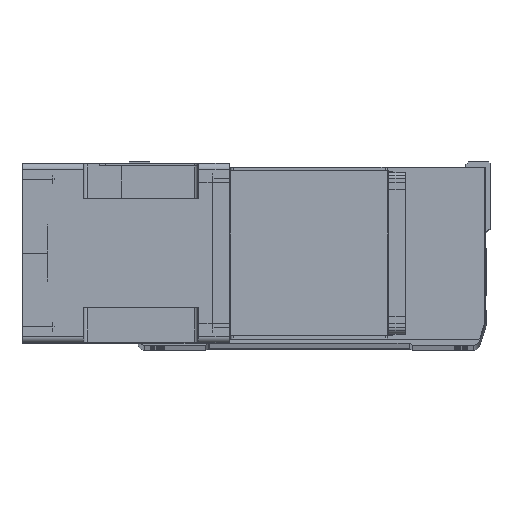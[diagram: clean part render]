
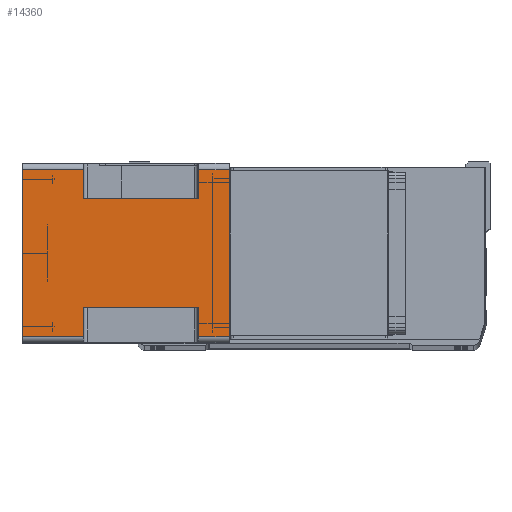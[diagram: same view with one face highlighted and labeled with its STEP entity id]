
A CAD part, top view. The second image highlights one B-rep face of the part: STEP entity #14360.
In plain terms, the highlighted planar face has unit normal (0, 0, 1) as drawn and (-1, 0, 0) by its records, which use the part's own axes.
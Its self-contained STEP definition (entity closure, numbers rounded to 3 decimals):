
#1558 = VECTOR ( 'NONE', #35155, 1000. ) ;
#1720 = PLANE ( 'NONE',  #9297 ) ;
#2394 = VERTEX_POINT ( 'NONE', #35733 ) ;
#3164 = VECTOR ( 'NONE', #30792, 1000. ) ;
#3342 = CARTESIAN_POINT ( 'NONE',  ( -71., -66., -164. ) ) ;
#3344 = LINE ( 'NONE', #8431, #40905 ) ;
#3500 = LINE ( 'NONE', #24046, #40519 ) ;
#4697 = VECTOR ( 'NONE', #44443, 1000. ) ;
#4717 = EDGE_CURVE ( 'NONE', #41891, #18001, #25726, .T. ) ;
#4936 = CARTESIAN_POINT ( 'NONE',  ( -71., 43., -115.5 ) ) ;
#6415 = ORIENTED_EDGE ( 'NONE', *, *, #35483, .T. ) ;
#6850 = CARTESIAN_POINT ( 'NONE',  ( -71., -66., -115.5 ) ) ;
#8260 = EDGE_CURVE ( 'NONE', #8470, #18917, #44166, .T. ) ;
#8354 = CARTESIAN_POINT ( 'NONE',  ( -71., -66., -164. ) ) ;
#8431 = CARTESIAN_POINT ( 'NONE',  ( -71., 66., -164. ) ) ;
#8470 = VERTEX_POINT ( 'NONE', #31399 ) ;
#8758 = VERTEX_POINT ( 'NONE', #43594 ) ;
#8981 = ORIENTED_EDGE ( 'NONE', *, *, #39936, .T. ) ;
#8991 = CARTESIAN_POINT ( 'NONE',  ( -71., 66., 0. ) ) ;
#9297 = AXIS2_PLACEMENT_3D ( 'NONE', #19325, #16022, #12374 ) ;
#9389 = ORIENTED_EDGE ( 'NONE', *, *, #25125, .T. ) ;
#9777 = CARTESIAN_POINT ( 'NONE',  ( -71., 66., -24.5 ) ) ;
#10078 = EDGE_LOOP ( 'NONE', ( #18414, #40142, #22203, #6415, #32350, #14262, #13342, #9389, #40970, #8981, #27501, #15174 ) ) ;
#10416 = EDGE_CURVE ( 'NONE', #2394, #8470, #41658, .T. ) ;
#10553 = EDGE_CURVE ( 'NONE', #35954, #43767, #46289, .T. ) ;
#11347 = LINE ( 'NONE', #45983, #18705 ) ;
#11778 = VERTEX_POINT ( 'NONE', #9777 ) ;
#12374 = DIRECTION ( 'NONE',  ( 0., -1., 0. ) ) ;
#13281 = VECTOR ( 'NONE', #15357, 1000. ) ;
#13342 = ORIENTED_EDGE ( 'NONE', *, *, #16824, .F. ) ;
#13682 = DIRECTION ( 'NONE',  ( 0., -1., 0. ) ) ;
#14262 = ORIENTED_EDGE ( 'NONE', *, *, #10553, .F. ) ;
#14360 = ADVANCED_FACE ( 'NONE', ( #41604 ), #1720, .T. ) ;
#14973 = DIRECTION ( 'NONE',  ( 0., 0., 1. ) ) ;
#15174 = ORIENTED_EDGE ( 'NONE', *, *, #10416, .T. ) ;
#15357 = DIRECTION ( 'NONE',  ( 0., 0., 1. ) ) ;
#16022 = DIRECTION ( 'NONE',  ( -1., 0., 0. ) ) ;
#16824 = EDGE_CURVE ( 'NONE', #11778, #35954, #3344, .T. ) ;
#17294 = VECTOR ( 'NONE', #14973, 1000. ) ;
#17776 = DIRECTION ( 'NONE',  ( 0., 1., 0. ) ) ;
#18001 = VERTEX_POINT ( 'NONE', #32336 ) ;
#18186 = LINE ( 'NONE', #22827, #4697 ) ;
#18414 = ORIENTED_EDGE ( 'NONE', *, *, #8260, .T. ) ;
#18705 = VECTOR ( 'NONE', #17776, 1000. ) ;
#18710 = DIRECTION ( 'NONE',  ( 0., -1., 0. ) ) ;
#18917 = VERTEX_POINT ( 'NONE', #6850 ) ;
#19325 = CARTESIAN_POINT ( 'NONE',  ( -71., -66., -164. ) ) ;
#20151 = VECTOR ( 'NONE', #35806, 1000. ) ;
#22203 = ORIENTED_EDGE ( 'NONE', *, *, #4717, .F. ) ;
#22763 = CARTESIAN_POINT ( 'NONE',  ( -71., 66., -115.5 ) ) ;
#22827 = CARTESIAN_POINT ( 'NONE',  ( -71., -43., -115.5 ) ) ;
#24046 = CARTESIAN_POINT ( 'NONE',  ( -71., 43., -24.5 ) ) ;
#25125 = EDGE_CURVE ( 'NONE', #11778, #8758, #3500, .T. ) ;
#25726 = LINE ( 'NONE', #46300, #1558 ) ;
#26732 = CARTESIAN_POINT ( 'NONE',  ( -71., 66., -164. ) ) ;
#27501 = ORIENTED_EDGE ( 'NONE', *, *, #42007, .F. ) ;
#28788 = CARTESIAN_POINT ( 'NONE',  ( -71., -66., -164. ) ) ;
#29356 = VECTOR ( 'NONE', #13682, 1000. ) ;
#29548 = CARTESIAN_POINT ( 'NONE',  ( -71., -43., -24.5 ) ) ;
#30251 = CARTESIAN_POINT ( 'NONE',  ( -71., 43., -164. ) ) ;
#30792 = DIRECTION ( 'NONE',  ( 0., 0., 1. ) ) ;
#31399 = CARTESIAN_POINT ( 'NONE',  ( -71., -66., -164. ) ) ;
#32201 = CARTESIAN_POINT ( 'NONE',  ( -71., -66., -24.5 ) ) ;
#32336 = CARTESIAN_POINT ( 'NONE',  ( -71., -43., -115.5 ) ) ;
#32350 = ORIENTED_EDGE ( 'NONE', *, *, #35869, .T. ) ;
#32726 = VECTOR ( 'NONE', #18710, 1000. ) ;
#34541 = LINE ( 'NONE', #26732, #3164 ) ;
#34790 = DIRECTION ( 'NONE',  ( 0., -1., 0. ) ) ;
#35155 = DIRECTION ( 'NONE',  ( 0., 0., -1. ) ) ;
#35483 = EDGE_CURVE ( 'NONE', #41891, #41002, #38069, .T. ) ;
#35733 = CARTESIAN_POINT ( 'NONE',  ( -71., 66., -164. ) ) ;
#35762 = CARTESIAN_POINT ( 'NONE',  ( -71., -66., 0. ) ) ;
#35806 = DIRECTION ( 'NONE',  ( 0., -1., 0. ) ) ;
#35869 = EDGE_CURVE ( 'NONE', #41002, #43767, #43660, .T. ) ;
#35954 = VERTEX_POINT ( 'NONE', #8991 ) ;
#36213 = EDGE_CURVE ( 'NONE', #44851, #8758, #44162, .T. ) ;
#37119 = DIRECTION ( 'NONE',  ( 0., 0., 1. ) ) ;
#38069 = LINE ( 'NONE', #32201, #20151 ) ;
#39443 = CARTESIAN_POINT ( 'NONE',  ( -71., -66., 0. ) ) ;
#39936 = EDGE_CURVE ( 'NONE', #44851, #40116, #11347, .T. ) ;
#40116 = VERTEX_POINT ( 'NONE', #22763 ) ;
#40142 = ORIENTED_EDGE ( 'NONE', *, *, #45591, .T. ) ;
#40519 = VECTOR ( 'NONE', #34790, 1000. ) ;
#40875 = VECTOR ( 'NONE', #44273, 1000. ) ;
#40905 = VECTOR ( 'NONE', #37119, 1000. ) ;
#40970 = ORIENTED_EDGE ( 'NONE', *, *, #36213, .F. ) ;
#41002 = VERTEX_POINT ( 'NONE', #46186 ) ;
#41604 = FACE_OUTER_BOUND ( 'NONE', #10078, .T. ) ;
#41658 = LINE ( 'NONE', #3342, #29356 ) ;
#41891 = VERTEX_POINT ( 'NONE', #29548 ) ;
#42007 = EDGE_CURVE ( 'NONE', #2394, #40116, #34541, .T. ) ;
#43594 = CARTESIAN_POINT ( 'NONE',  ( -71., 43., -24.5 ) ) ;
#43660 = LINE ( 'NONE', #8354, #40875 ) ;
#43767 = VERTEX_POINT ( 'NONE', #39443 ) ;
#44162 = LINE ( 'NONE', #30251, #13281 ) ;
#44166 = LINE ( 'NONE', #28788, #17294 ) ;
#44273 = DIRECTION ( 'NONE',  ( 0., 0., 1. ) ) ;
#44443 = DIRECTION ( 'NONE',  ( 0., 1., 0. ) ) ;
#44851 = VERTEX_POINT ( 'NONE', #4936 ) ;
#45591 = EDGE_CURVE ( 'NONE', #18917, #18001, #18186, .T. ) ;
#45983 = CARTESIAN_POINT ( 'NONE',  ( -71., -66., -115.5 ) ) ;
#46186 = CARTESIAN_POINT ( 'NONE',  ( -71., -66., -24.5 ) ) ;
#46289 = LINE ( 'NONE', #35762, #32726 ) ;
#46300 = CARTESIAN_POINT ( 'NONE',  ( -71., -43., -164. ) ) ;
